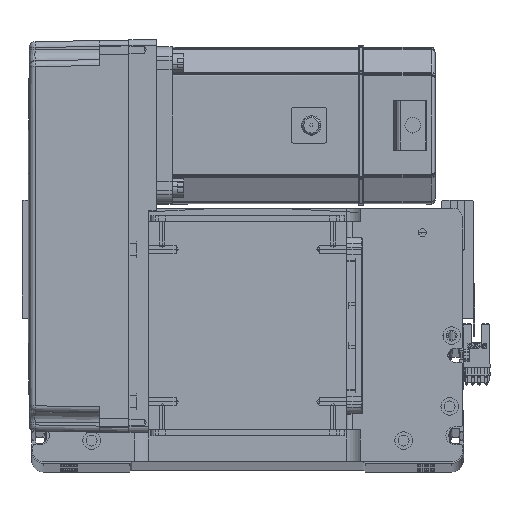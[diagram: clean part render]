
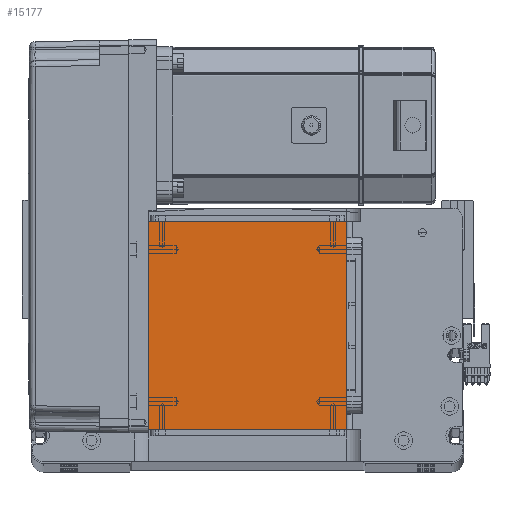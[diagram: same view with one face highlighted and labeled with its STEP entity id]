
A CAD part, top view. The second image highlights one B-rep face of the part: STEP entity #15177.
In plain terms, the highlighted planar face has unit normal (0, 0, 1).
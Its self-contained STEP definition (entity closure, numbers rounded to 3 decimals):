
#366 = VERTEX_POINT ( 'NONE', #42078 ) ;
#3593 = ORIENTED_EDGE ( 'NONE', *, *, #31510, .T. ) ;
#6806 = LINE ( 'NONE', #30237, #19784 ) ;
#7338 = EDGE_CURVE ( 'NONE', #366, #25370, #6806, .T. ) ;
#10964 = DIRECTION ( 'NONE',  ( -1., 0., 0. ) ) ;
#13403 = ORIENTED_EDGE ( 'NONE', *, *, #7338, .T. ) ;
#15177 = ADVANCED_FACE ( 'NONE', ( #31613 ), #16857, .T. ) ;
#15218 = AXIS2_PLACEMENT_3D ( 'NONE', #38964, #34499, #30288 ) ;
#15874 = CARTESIAN_POINT ( 'NONE',  ( 50.5, 16., 115. ) ) ;
#16857 = PLANE ( 'NONE',  #15218 ) ;
#17180 = DIRECTION ( 'NONE',  ( 1., 0., 0. ) ) ;
#19784 = VECTOR ( 'NONE', #17180, 1000. ) ;
#20111 = EDGE_CURVE ( 'NONE', #36524, #44225, #46956, .T. ) ;
#21478 = DIRECTION ( 'NONE',  ( 0., 1., 0. ) ) ;
#21864 = CARTESIAN_POINT ( 'NONE',  ( 50.5, 122., 115. ) ) ;
#22565 = CARTESIAN_POINT ( 'NONE',  ( -50.5, 122., 115. ) ) ;
#25168 = EDGE_LOOP ( 'NONE', ( #28254, #13403, #3593, #40801 ) ) ;
#25370 = VERTEX_POINT ( 'NONE', #15874 ) ;
#28254 = ORIENTED_EDGE ( 'NONE', *, *, #32194, .T. ) ;
#28414 = CARTESIAN_POINT ( 'NONE',  ( -50.5, 122., 115. ) ) ;
#30237 = CARTESIAN_POINT ( 'NONE',  ( -50.5, 16., 115. ) ) ;
#30288 = DIRECTION ( 'NONE',  ( 1., 0., 0. ) ) ;
#31510 = EDGE_CURVE ( 'NONE', #25370, #36524, #54509, .T. ) ;
#31613 = FACE_OUTER_BOUND ( 'NONE', #25168, .T. ) ;
#32194 = EDGE_CURVE ( 'NONE', #44225, #366, #46207, .T. ) ;
#34499 = DIRECTION ( 'NONE',  ( 0., 0., 1. ) ) ;
#36524 = VERTEX_POINT ( 'NONE', #44805 ) ;
#36699 = VECTOR ( 'NONE', #21478, 1000. ) ;
#38703 = VECTOR ( 'NONE', #49257, 1000. ) ;
#38964 = CARTESIAN_POINT ( 'NONE',  ( 0., 0., 115. ) ) ;
#40794 = CARTESIAN_POINT ( 'NONE',  ( -50.5, 122., 115. ) ) ;
#40801 = ORIENTED_EDGE ( 'NONE', *, *, #20111, .T. ) ;
#41444 = VECTOR ( 'NONE', #10964, 1000. ) ;
#42078 = CARTESIAN_POINT ( 'NONE',  ( -50.5, 16., 115. ) ) ;
#44225 = VERTEX_POINT ( 'NONE', #40794 ) ;
#44805 = CARTESIAN_POINT ( 'NONE',  ( 50.5, 122., 115. ) ) ;
#46207 = LINE ( 'NONE', #22565, #38703 ) ;
#46956 = LINE ( 'NONE', #28414, #41444 ) ;
#49257 = DIRECTION ( 'NONE',  ( 0., -1., 0. ) ) ;
#54509 = LINE ( 'NONE', #21864, #36699 ) ;
